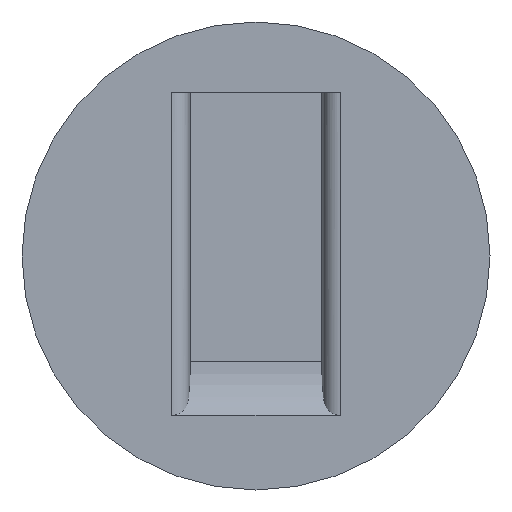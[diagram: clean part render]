
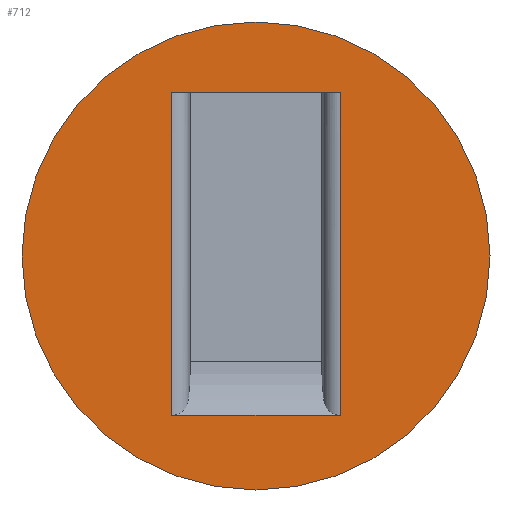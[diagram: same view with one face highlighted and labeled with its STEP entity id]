
A CAD part, front view. The second image highlights one B-rep face of the part: STEP entity #712.
In plain terms, the highlighted planar face has unit normal (0, -1, 0).
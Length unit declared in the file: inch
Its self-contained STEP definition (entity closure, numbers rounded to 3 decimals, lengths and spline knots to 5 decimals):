
#5 = CARTESIAN_POINT ( 'NONE',  ( 0., -0.06539, 1.4 ) ) ;
#23 = CARTESIAN_POINT ( 'NONE',  ( -0.35911, -0.06539, 1.4 ) ) ;
#40 = LINE ( 'NONE', #163, #452 ) ;
#49 = DIRECTION ( 'NONE',  ( 1., 0., 0. ) ) ;
#58 = EDGE_CURVE ( 'NONE', #555, #750, #175, .T. ) ;
#62 = AXIS2_PLACEMENT_3D ( 'NONE', #547, #377, #596 ) ;
#101 = ORIENTED_EDGE ( 'NONE', *, *, #169, .T. ) ;
#112 = EDGE_CURVE ( 'NONE', #228, #481, #116, .T. ) ;
#116 = CIRCLE ( 'NONE', #635, 1. ) ;
#118 = LINE ( 'NONE', #347, #752 ) ;
#139 = DIRECTION ( 'NONE',  ( -1., 0., 0. ) ) ;
#143 = VECTOR ( 'NONE', #414, 39.37008 ) ;
#163 = CARTESIAN_POINT ( 'NONE',  ( 0., -0.06539, 1.4 ) ) ;
#165 = CIRCLE ( 'NONE', #62, 1. ) ;
#169 = EDGE_CURVE ( 'NONE', #481, #228, #165, .T. ) ;
#170 = CARTESIAN_POINT ( 'NONE',  ( 0.35911, -0.06539, 1.4 ) ) ;
#172 = CARTESIAN_POINT ( 'NONE',  ( 0., -0.06539, 0.7 ) ) ;
#175 = LINE ( 'NONE', #404, #143 ) ;
#208 = ORIENTED_EDGE ( 'NONE', *, *, #338, .T. ) ;
#213 = CARTESIAN_POINT ( 'NONE',  ( 0.35911, -0.06539, 0.01958 ) ) ;
#228 = VERTEX_POINT ( 'NONE', #320 ) ;
#255 = ORIENTED_EDGE ( 'NONE', *, *, #58, .T. ) ;
#271 = EDGE_CURVE ( 'NONE', #400, #348, #552, .T. ) ;
#316 = EDGE_LOOP ( 'NONE', ( #101, #607 ) ) ;
#320 = CARTESIAN_POINT ( 'NONE',  ( 1., -0.06539, 0.7 ) ) ;
#332 = ORIENTED_EDGE ( 'NONE', *, *, #444, .F. ) ;
#338 = EDGE_CURVE ( 'NONE', #400, #555, #40, .T. ) ;
#347 = CARTESIAN_POINT ( 'NONE',  ( -0.35911, -0.06539, 0.01958 ) ) ;
#348 = VERTEX_POINT ( 'NONE', #442 ) ;
#357 = VECTOR ( 'NONE', #654, 39.37008 ) ;
#362 = DIRECTION ( 'NONE',  ( 0., -1., 0. ) ) ;
#377 = DIRECTION ( 'NONE',  ( 0., -1., 0. ) ) ;
#400 = VERTEX_POINT ( 'NONE', #561 ) ;
#404 = CARTESIAN_POINT ( 'NONE',  ( 0.35911, -0.06539, 1.4 ) ) ;
#414 = DIRECTION ( 'NONE',  ( 0., 0., -1. ) ) ;
#429 = DIRECTION ( 'NONE',  ( 0., 1., 0. ) ) ;
#442 = CARTESIAN_POINT ( 'NONE',  ( -0.35911, -0.06539, 0.01958 ) ) ;
#444 = EDGE_CURVE ( 'NONE', #348, #750, #118, .T. ) ;
#452 = VECTOR ( 'NONE', #683, 39.37008 ) ;
#479 = AXIS2_PLACEMENT_3D ( 'NONE', #5, #429, #139 ) ;
#481 = VERTEX_POINT ( 'NONE', #640 ) ;
#509 = ORIENTED_EDGE ( 'NONE', *, *, #271, .F. ) ;
#532 = PLANE ( 'NONE',  #479 ) ;
#544 = FACE_BOUND ( 'NONE', #611, .T. ) ;
#547 = CARTESIAN_POINT ( 'NONE',  ( 0., -0.06539, 0.7 ) ) ;
#552 = LINE ( 'NONE', #23, #357 ) ;
#555 = VERTEX_POINT ( 'NONE', #170 ) ;
#561 = CARTESIAN_POINT ( 'NONE',  ( -0.35911, -0.06539, 1.4 ) ) ;
#596 = DIRECTION ( 'NONE',  ( 0., 0., -1. ) ) ;
#607 = ORIENTED_EDGE ( 'NONE', *, *, #112, .T. ) ;
#611 = EDGE_LOOP ( 'NONE', ( #208, #255, #332, #509 ) ) ;
#635 = AXIS2_PLACEMENT_3D ( 'NONE', #172, #362, #756 ) ;
#640 = CARTESIAN_POINT ( 'NONE',  ( -1., -0.06539, 0.7 ) ) ;
#654 = DIRECTION ( 'NONE',  ( 0., 0., -1. ) ) ;
#660 = FACE_OUTER_BOUND ( 'NONE', #316, .T. ) ;
#683 = DIRECTION ( 'NONE',  ( 1., 0., 0. ) ) ;
#712 = ADVANCED_FACE ( 'NONE', ( #660, #544 ), #532, .F. ) ;
#750 = VERTEX_POINT ( 'NONE', #213 ) ;
#752 = VECTOR ( 'NONE', #49, 39.37008 ) ;
#756 = DIRECTION ( 'NONE',  ( 0., 0., -1. ) ) ;
